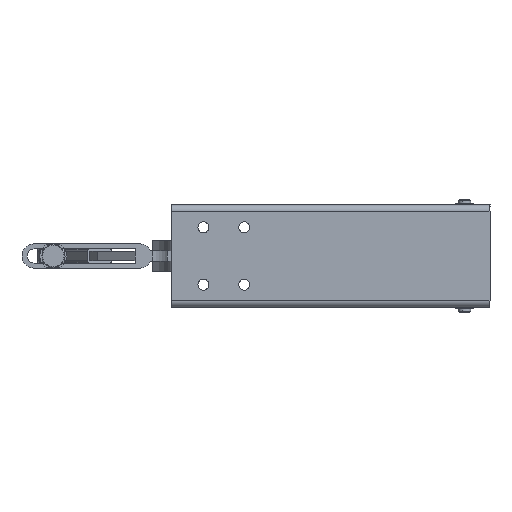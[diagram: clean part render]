
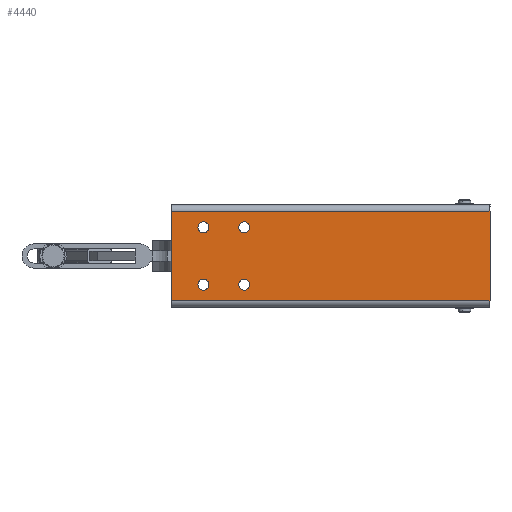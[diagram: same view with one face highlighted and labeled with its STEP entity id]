
A CAD part, front view. The second image highlights one B-rep face of the part: STEP entity #4440.
In plain terms, the highlighted planar face has unit normal (0, -1, 0).
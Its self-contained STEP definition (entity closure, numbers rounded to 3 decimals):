
#509=CARTESIAN_POINT('',(-318.491,32.831,-153.439));
#510=VERTEX_POINT('',#509);
#526=CARTESIAN_POINT('',(-326.991,32.831,-153.439));
#527=VERTEX_POINT('',#526);
#534=CARTESIAN_POINT('',(-322.741,32.831,-153.439));
#535=DIRECTION('',(0.0,1.0,0.0));
#536=DIRECTION('',(1.0,0.0,0.0));
#537=AXIS2_PLACEMENT_3D('',#534,#535,#536);
#538=CIRCLE('',#537,4.25);
#539=EDGE_CURVE('',#510,#527,#538,.T.);
#572=CARTESIAN_POINT('',(-286.491,32.831,-108.439));
#573=VERTEX_POINT('',#572);
#589=CARTESIAN_POINT('',(-294.991,32.831,-108.439));
#590=VERTEX_POINT('',#589);
#597=CARTESIAN_POINT('',(-290.741,32.831,-108.439));
#598=DIRECTION('',(0.0,1.0,0.0));
#599=DIRECTION('',(1.0,0.0,0.0));
#600=AXIS2_PLACEMENT_3D('',#597,#598,#599);
#601=CIRCLE('',#600,4.25);
#602=EDGE_CURVE('',#573,#590,#601,.T.);
#635=CARTESIAN_POINT('',(-318.491,32.831,-108.439));
#636=VERTEX_POINT('',#635);
#652=CARTESIAN_POINT('',(-326.991,32.831,-108.439));
#653=VERTEX_POINT('',#652);
#660=CARTESIAN_POINT('',(-322.741,32.831,-108.439));
#661=DIRECTION('',(0.0,1.0,0.0));
#662=DIRECTION('',(1.0,0.0,0.0));
#663=AXIS2_PLACEMENT_3D('',#660,#661,#662);
#664=CIRCLE('',#663,4.25);
#665=EDGE_CURVE('',#636,#653,#664,.T.);
#698=CARTESIAN_POINT('',(-286.491,32.831,-153.439));
#699=VERTEX_POINT('',#698);
#715=CARTESIAN_POINT('',(-294.991,32.831,-153.439));
#716=VERTEX_POINT('',#715);
#723=CARTESIAN_POINT('',(-290.741,32.831,-153.439));
#724=DIRECTION('',(0.0,1.0,0.0));
#725=DIRECTION('',(1.0,0.0,0.0));
#726=AXIS2_PLACEMENT_3D('',#723,#724,#725);
#727=CIRCLE('',#726,4.25);
#728=EDGE_CURVE('',#699,#716,#727,.T.);
#4004=CARTESIAN_POINT('',(-290.741,32.831,-153.439));
#4005=DIRECTION('',(0.0,1.0,0.0));
#4006=DIRECTION('',(1.0,0.0,0.0));
#4007=AXIS2_PLACEMENT_3D('',#4004,#4005,#4006);
#4008=CIRCLE('',#4007,4.25);
#4009=EDGE_CURVE('',#716,#699,#4008,.T.);
#4043=CARTESIAN_POINT('',(-322.741,32.831,-108.439));
#4044=DIRECTION('',(0.0,1.0,0.0));
#4045=DIRECTION('',(1.0,0.0,0.0));
#4046=AXIS2_PLACEMENT_3D('',#4043,#4044,#4045);
#4047=CIRCLE('',#4046,4.25);
#4048=EDGE_CURVE('',#653,#636,#4047,.T.);
#4082=CARTESIAN_POINT('',(-290.741,32.831,-108.439));
#4083=DIRECTION('',(0.0,1.0,0.0));
#4084=DIRECTION('',(1.0,0.0,0.0));
#4085=AXIS2_PLACEMENT_3D('',#4082,#4083,#4084);
#4086=CIRCLE('',#4085,4.25);
#4087=EDGE_CURVE('',#590,#573,#4086,.T.);
#4121=CARTESIAN_POINT('',(-322.741,32.831,-153.439));
#4122=DIRECTION('',(0.0,1.0,0.0));
#4123=DIRECTION('',(1.0,0.0,0.0));
#4124=AXIS2_PLACEMENT_3D('',#4121,#4122,#4123);
#4125=CIRCLE('',#4124,4.25);
#4126=EDGE_CURVE('',#527,#510,#4125,.T.);
#4138=CARTESIAN_POINT('',(-347.991,32.831,-95.939));
#4139=VERTEX_POINT('',#4138);
#4147=CARTESIAN_POINT('',(-97.991,32.831,-95.939));
#4148=VERTEX_POINT('',#4147);
#4149=CARTESIAN_POINT('',(-347.991,32.831,-95.939));
#4150=DIRECTION('',(1.0,0.0,0.0));
#4151=VECTOR('',#4150,250.);
#4152=LINE('',#4149,#4151);
#4153=EDGE_CURVE('',#4139,#4148,#4152,.T.);
#4171=CARTESIAN_POINT('',(-347.991,32.831,-165.939));
#4172=VERTEX_POINT('',#4171);
#4181=CARTESIAN_POINT('',(-97.991,32.831,-165.939));
#4182=VERTEX_POINT('',#4181);
#4190=CARTESIAN_POINT('',(-347.991,32.831,-165.939));
#4191=DIRECTION('',(1.0,0.0,0.0));
#4192=VECTOR('',#4191,250.);
#4193=LINE('',#4190,#4192);
#4194=EDGE_CURVE('',#4172,#4182,#4193,.T.);
#4241=CARTESIAN_POINT('',(-347.991,32.831,-95.939));
#4242=DIRECTION('',(0.0,0.0,-1.0));
#4243=VECTOR('',#4242,70.);
#4244=LINE('',#4241,#4243);
#4245=EDGE_CURVE('',#4139,#4172,#4244,.T.);
#4343=CARTESIAN_POINT('',(-97.991,32.831,-95.939));
#4344=DIRECTION('',(0.0,0.0,-1.0));
#4345=VECTOR('',#4344,70.);
#4346=LINE('',#4343,#4345);
#4347=EDGE_CURVE('',#4148,#4182,#4346,.T.);
#4413=CARTESIAN_POINT('',(-347.991,32.831,-90.939));
#4414=DIRECTION('',(0.0,-1.0,0.0));
#4415=DIRECTION('',(0.0,0.0,-1.0));
#4416=AXIS2_PLACEMENT_3D('',#4413,#4414,#4415);
#4417=PLANE('',#4416);
#4418=ORIENTED_EDGE('',*,*,#4153,.F.);
#4419=ORIENTED_EDGE('',*,*,#4245,.T.);
#4420=ORIENTED_EDGE('',*,*,#4194,.T.);
#4421=ORIENTED_EDGE('',*,*,#4347,.F.);
#4422=EDGE_LOOP('',(#4418,#4419,#4420,#4421));
#4423=FACE_OUTER_BOUND('',#4422,.T.);
#4424=ORIENTED_EDGE('',*,*,#728,.T.);
#4425=ORIENTED_EDGE('',*,*,#4009,.T.);
#4426=EDGE_LOOP('',(#4424,#4425));
#4427=FACE_BOUND('',#4426,.T.);
#4428=ORIENTED_EDGE('',*,*,#665,.T.);
#4429=ORIENTED_EDGE('',*,*,#4048,.T.);
#4430=EDGE_LOOP('',(#4428,#4429));
#4431=FACE_BOUND('',#4430,.T.);
#4432=ORIENTED_EDGE('',*,*,#602,.T.);
#4433=ORIENTED_EDGE('',*,*,#4087,.T.);
#4434=EDGE_LOOP('',(#4432,#4433));
#4435=FACE_BOUND('',#4434,.T.);
#4436=ORIENTED_EDGE('',*,*,#539,.T.);
#4437=ORIENTED_EDGE('',*,*,#4126,.T.);
#4438=EDGE_LOOP('',(#4436,#4437));
#4439=FACE_BOUND('',#4438,.T.);
#4440=ADVANCED_FACE('',(#4423,#4427,#4431,#4435,#4439),#4417,.T.);
